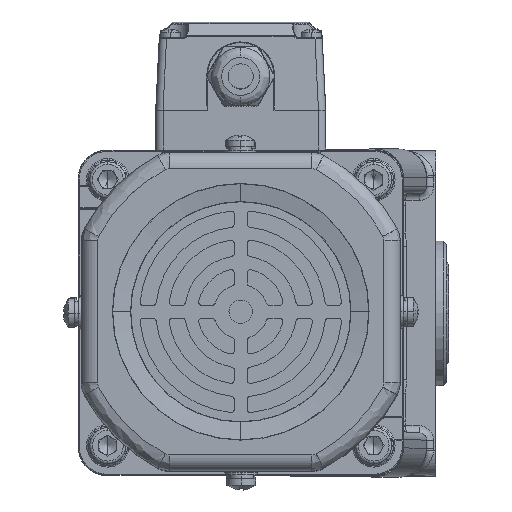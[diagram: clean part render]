
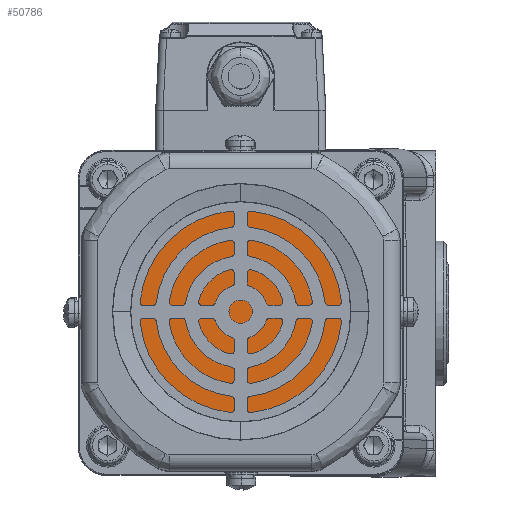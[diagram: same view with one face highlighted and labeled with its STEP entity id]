
A CAD part, top view. The second image highlights one B-rep face of the part: STEP entity #50786.
In plain terms, the highlighted planar face has unit normal (0, 0, 1) as drawn and (0, 0, -1) by its records, which use the part's own axes.
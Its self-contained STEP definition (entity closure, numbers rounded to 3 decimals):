
#12434 = CARTESIAN_POINT ( 'NONE',  ( 16.45, -84.581, 121.25 ) ) ;
#16839 =( BOUNDED_CURVE ( )  B_SPLINE_CURVE ( 3, ( #114021, #66211, #47093, #26078 ),
 .UNSPECIFIED., .F., .F. ) 
 B_SPLINE_CURVE_WITH_KNOTS ( ( 4, 4 ),
 ( 0., 1. ),
 .UNSPECIFIED. ) 
 CURVE ( )  GEOMETRIC_REPRESENTATION_ITEM ( )  RATIONAL_B_SPLINE_CURVE ( ( 1., 0.333, 0.333, 1. ) ) 
 REPRESENTATION_ITEM ( '' )  );
#19030 = CARTESIAN_POINT ( 'NONE',  ( -60.35, -84.583, 121.25 ) ) ;
#24921 = EDGE_LOOP ( 'NONE', ( #61086, #113077 ) ) ;
#26078 = CARTESIAN_POINT ( 'NONE',  ( -60.352, -7.783, 121.25 ) ) ;
#33300 =( BOUNDED_CURVE ( )  B_SPLINE_CURVE ( 3, ( #87924, #19030, #12434, #86026 ),
 .UNSPECIFIED., .F., .F. ) 
 B_SPLINE_CURVE_WITH_KNOTS ( ( 4, 4 ),
 ( 0., 1. ),
 .UNSPECIFIED. ) 
 CURVE ( )  GEOMETRIC_REPRESENTATION_ITEM ( )  RATIONAL_B_SPLINE_CURVE ( ( 1., 0.333, 0.333, 1. ) ) 
 REPRESENTATION_ITEM ( '' )  );
#35402 = AXIS2_PLACEMENT_3D ( 'NONE', #110222, #43296, #112104 ) ;
#43296 = DIRECTION ( 'NONE',  ( 0., 0., 1. ) ) ;
#47093 = CARTESIAN_POINT ( 'NONE',  ( -60.354, 69.017, 121.25 ) ) ;
#50786 = ADVANCED_FACE ( 'NONE', ( #90490 ), #91728, .F. ) ;
#61086 = ORIENTED_EDGE ( 'NONE', *, *, #67790, .F. ) ;
#66211 = CARTESIAN_POINT ( 'NONE',  ( 16.446, 69.019, 121.25 ) ) ;
#67790 = EDGE_CURVE ( 'NONE', #96629, #78983, #33300, .T. ) ;
#78983 = VERTEX_POINT ( 'NONE', #110489 ) ;
#86026 = CARTESIAN_POINT ( 'NONE',  ( 16.448, -7.781, 121.25 ) ) ;
#87924 = CARTESIAN_POINT ( 'NONE',  ( -60.352, -7.783, 121.25 ) ) ;
#90490 = FACE_OUTER_BOUND ( 'NONE', #24921, .T. ) ;
#91728 = PLANE ( 'NONE',  #35402 ) ;
#96629 = VERTEX_POINT ( 'NONE', #108089 ) ;
#108089 = CARTESIAN_POINT ( 'NONE',  ( -60.352, -7.783, 121.25 ) ) ;
#110222 = CARTESIAN_POINT ( 'NONE',  ( -21.952, -7.782, 121.25 ) ) ;
#110489 = CARTESIAN_POINT ( 'NONE',  ( 16.448, -7.781, 121.25 ) ) ;
#112104 = DIRECTION ( 'NONE',  ( 1., 0., 0. ) ) ;
#113077 = ORIENTED_EDGE ( 'NONE', *, *, #120981, .F. ) ;
#114021 = CARTESIAN_POINT ( 'NONE',  ( 16.448, -7.781, 121.25 ) ) ;
#120981 = EDGE_CURVE ( 'NONE', #78983, #96629, #16839, .T. ) ;
